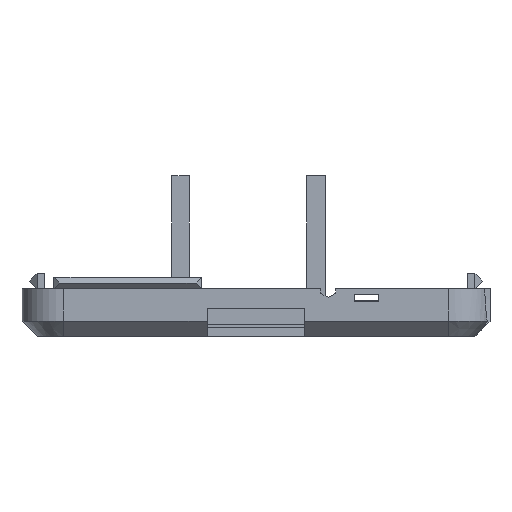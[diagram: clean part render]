
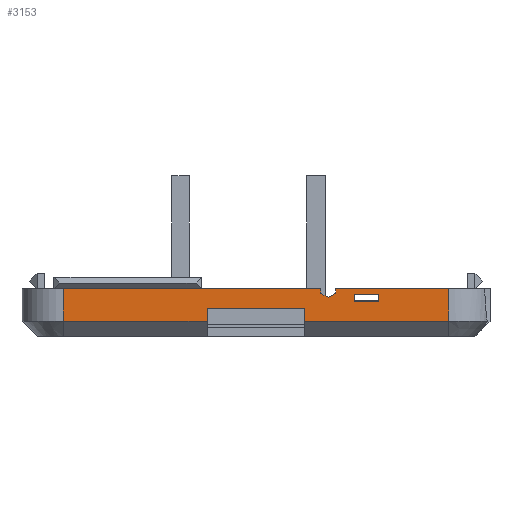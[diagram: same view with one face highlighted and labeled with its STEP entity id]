
A CAD part, left-side view. The second image highlights one B-rep face of the part: STEP entity #3153.
In plain terms, the highlighted planar face has unit normal (-1, 0, 0).
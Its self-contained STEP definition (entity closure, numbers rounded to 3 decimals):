
#69=FACE_BOUND('',#577,.T.);
#403=FACE_OUTER_BOUND('',#576,.T.);
#576=EDGE_LOOP('',(#2642,#2643,#2644,#2645,#2646,#2647,#2648,#2649,#2650,
#2651,#2652,#2653,#2654));
#577=EDGE_LOOP('',(#2655,#2656,#2657,#2658));
#713=LINE('',#5621,#996);
#766=LINE('',#5744,#1049);
#801=LINE('',#5841,#1084);
#804=LINE('',#5848,#1087);
#825=LINE('',#5904,#1108);
#827=LINE('',#5908,#1110);
#828=LINE('',#5910,#1111);
#848=LINE('',#5955,#1131);
#850=LINE('',#5959,#1133);
#852=LINE('',#5963,#1135);
#854=LINE('',#5966,#1137);
#858=LINE('',#5975,#1141);
#860=LINE('',#5991,#1143);
#861=LINE('',#5993,#1144);
#862=LINE('',#5995,#1145);
#863=LINE('',#5996,#1146);
#864=LINE('',#5997,#1147);
#996=VECTOR('',#3570,10.);
#1049=VECTOR('',#3659,10.);
#1084=VECTOR('',#3732,10.);
#1087=VECTOR('',#3739,10.);
#1108=VECTOR('',#3798,10.);
#1110=VECTOR('',#3802,10.);
#1111=VECTOR('',#3805,10.);
#1131=VECTOR('',#3857,10.);
#1133=VECTOR('',#3861,10.);
#1135=VECTOR('',#3865,10.);
#1137=VECTOR('',#3869,10.);
#1141=VECTOR('',#3875,10.);
#1143=VECTOR('',#3885,10.);
#1144=VECTOR('',#3886,10.);
#1145=VECTOR('',#3887,10.);
#1146=VECTOR('',#3888,10.);
#1147=VECTOR('',#3889,10.);
#1372=VERTEX_POINT('',#5618);
#1373=VERTEX_POINT('',#5620);
#1415=VERTEX_POINT('',#5741);
#1416=VERTEX_POINT('',#5743);
#1450=VERTEX_POINT('',#5840);
#1452=VERTEX_POINT('',#5846);
#1468=VERTEX_POINT('',#5902);
#1469=VERTEX_POINT('',#5906);
#1477=VERTEX_POINT('',#5952);
#1478=VERTEX_POINT('',#5954);
#1479=VERTEX_POINT('',#5958);
#1480=VERTEX_POINT('',#5962);
#1481=VERTEX_POINT('',#5968);
#1484=VERTEX_POINT('',#5973);
#1488=VERTEX_POINT('',#5990);
#1489=VERTEX_POINT('',#5992);
#1490=VERTEX_POINT('',#5994);
#1744=EDGE_CURVE('',#1373,#1372,#713,.T.);
#1801=EDGE_CURVE('',#1416,#1415,#766,.T.);
#1848=EDGE_CURVE('',#1450,#1373,#801,.T.);
#1852=EDGE_CURVE('',#1452,#1372,#804,.T.);
#1881=EDGE_CURVE('',#1415,#1468,#825,.T.);
#1883=EDGE_CURVE('',#1468,#1469,#827,.T.);
#1884=EDGE_CURVE('',#1469,#1450,#828,.T.);
#1908=EDGE_CURVE('',#1478,#1477,#848,.T.);
#1910=EDGE_CURVE('',#1479,#1478,#850,.T.);
#1912=EDGE_CURVE('',#1480,#1479,#852,.T.);
#1914=EDGE_CURVE('',#1477,#1480,#854,.T.);
#1918=EDGE_CURVE('',#1484,#1481,#858,.T.);
#1923=EDGE_CURVE('',#1488,#1452,#860,.T.);
#1924=EDGE_CURVE('',#1488,#1489,#861,.T.);
#1925=EDGE_CURVE('',#1489,#1490,#862,.T.);
#1926=EDGE_CURVE('',#1490,#1481,#863,.T.);
#1927=EDGE_CURVE('',#1416,#1484,#864,.T.);
#2642=ORIENTED_EDGE('',*,*,#1801,.T.);
#2643=ORIENTED_EDGE('',*,*,#1881,.T.);
#2644=ORIENTED_EDGE('',*,*,#1883,.T.);
#2645=ORIENTED_EDGE('',*,*,#1884,.T.);
#2646=ORIENTED_EDGE('',*,*,#1848,.T.);
#2647=ORIENTED_EDGE('',*,*,#1744,.T.);
#2648=ORIENTED_EDGE('',*,*,#1852,.F.);
#2649=ORIENTED_EDGE('',*,*,#1923,.F.);
#2650=ORIENTED_EDGE('',*,*,#1924,.T.);
#2651=ORIENTED_EDGE('',*,*,#1925,.T.);
#2652=ORIENTED_EDGE('',*,*,#1926,.T.);
#2653=ORIENTED_EDGE('',*,*,#1918,.F.);
#2654=ORIENTED_EDGE('',*,*,#1927,.F.);
#2655=ORIENTED_EDGE('',*,*,#1908,.T.);
#2656=ORIENTED_EDGE('',*,*,#1914,.T.);
#2657=ORIENTED_EDGE('',*,*,#1912,.T.);
#2658=ORIENTED_EDGE('',*,*,#1910,.T.);
#3012=PLANE('',#3337);
#3153=ADVANCED_FACE('',(#403,#69),#3012,.T.);
#3337=AXIS2_PLACEMENT_3D('',#5989,#3883,#3884);
#3570=DIRECTION('',(0.,1.,0.));
#3659=DIRECTION('',(0.,1.,0.));
#3732=DIRECTION('',(0.,0.,1.));
#3739=DIRECTION('',(0.,0.,1.));
#3798=DIRECTION('',(0.,0.,-1.));
#3802=DIRECTION('',(0.,0.866,-0.5));
#3805=DIRECTION('',(0.,0.866,0.5));
#3857=DIRECTION('',(0.,0.,1.));
#3861=DIRECTION('',(0.,1.,0.));
#3865=DIRECTION('',(0.,0.,-1.));
#3869=DIRECTION('',(0.,-1.,0.));
#3875=DIRECTION('',(0.,1.,0.));
#3883=DIRECTION('center_axis',(-1.,0.,0.));
#3884=DIRECTION('ref_axis',(0.,-1.,0.));
#3885=DIRECTION('',(0.,1.,0.));
#3886=DIRECTION('',(0.,0.,1.));
#3887=DIRECTION('',(0.,-1.,0.));
#3888=DIRECTION('',(0.,0.,-1.));
#3889=DIRECTION('',(0.,0.,-1.));
#5618=CARTESIAN_POINT('',(-45.6,25.6,3.22));
#5620=CARTESIAN_POINT('',(-45.6,-8.6,3.22));
#5621=CARTESIAN_POINT('',(-45.6,15.549,3.22));
#5741=CARTESIAN_POINT('',(-45.6,-10.6,3.22));
#5743=CARTESIAN_POINT('',(-45.6,-25.6,3.22));
#5744=CARTESIAN_POINT('',(-45.6,15.549,3.22));
#5840=CARTESIAN_POINT('',(-45.6,-8.6,2.623));
#5841=CARTESIAN_POINT('',(-45.6,-8.6,-0.239));
#5846=CARTESIAN_POINT('',(-45.6,25.6,-1.1));
#5848=CARTESIAN_POINT('',(-45.6,25.6,-3.1));
#5902=CARTESIAN_POINT('',(-45.6,-10.6,2.623));
#5904=CARTESIAN_POINT('',(-45.6,-10.6,0.339));
#5906=CARTESIAN_POINT('',(-45.6,-9.6,2.045));
#5908=CARTESIAN_POINT('',(-45.6,6.276,-7.121));
#5910=CARTESIAN_POINT('',(-45.6,4.549,10.214));
#5952=CARTESIAN_POINT('',(-45.6,-13.1,2.5));
#5954=CARTESIAN_POINT('',(-45.6,-13.1,1.5));
#5955=CARTESIAN_POINT('',(-45.6,-13.1,-0.8));
#5958=CARTESIAN_POINT('',(-45.6,-16.3,1.5));
#5959=CARTESIAN_POINT('',(-45.6,7.4,1.5));
#5962=CARTESIAN_POINT('',(-45.6,-16.3,2.5));
#5963=CARTESIAN_POINT('',(-45.6,-16.3,-0.3));
#5966=CARTESIAN_POINT('',(-45.6,9.,2.5));
#5968=CARTESIAN_POINT('',(-45.6,-6.45,-1.1));
#5973=CARTESIAN_POINT('',(-45.6,-25.6,-1.1));
#5975=CARTESIAN_POINT('',(-45.6,15.55,-1.1));
#5989=CARTESIAN_POINT('Origin',(-45.6,31.1,-3.1));
#5990=CARTESIAN_POINT('',(-45.6,6.5,-1.1));
#5991=CARTESIAN_POINT('',(-45.6,15.55,-1.1));
#5992=CARTESIAN_POINT('',(-45.6,6.5,0.61));
#5993=CARTESIAN_POINT('',(-45.6,6.5,-2.545));
#5994=CARTESIAN_POINT('',(-45.6,-6.45,0.61));
#5995=CARTESIAN_POINT('',(-45.6,18.8,0.61));
#5996=CARTESIAN_POINT('',(-45.6,-6.45,-1.245));
#5997=CARTESIAN_POINT('',(-45.6,-25.6,-3.1));
